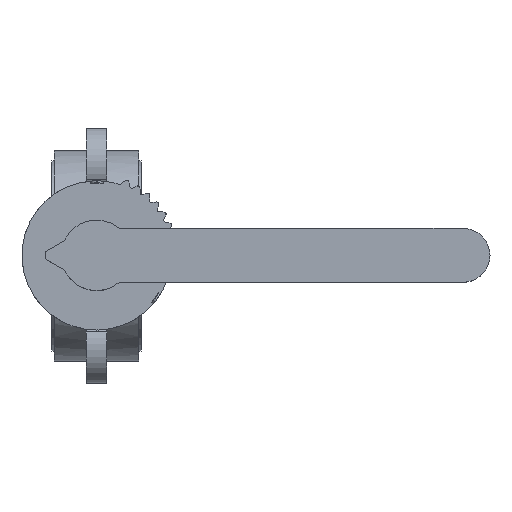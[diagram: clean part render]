
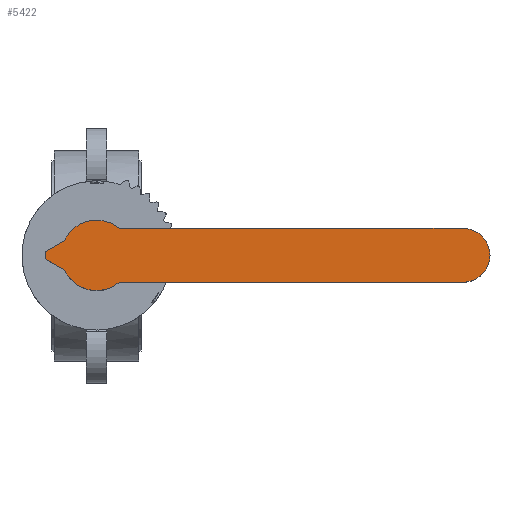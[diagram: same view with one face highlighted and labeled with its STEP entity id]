
A CAD part, top view. The second image highlights one B-rep face of the part: STEP entity #5422.
In plain terms, the highlighted planar face has unit normal (0, 0, 1).
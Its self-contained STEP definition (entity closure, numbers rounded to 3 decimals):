
#5422=ADVANCED_FACE('',(#10642),#10644,.T.);
#10642=FACE_BOUND('',#10643,.T.);
#10643=EDGE_LOOP('',(#14781,#14782,#14783,#14784,#14785,#14786,#14787,#14788,#14789,
#14790,#14791));
#10644=PLANE('',#10645);
#10645=AXIS2_PLACEMENT_3D('',#10646,#10647,#10648);
#10646=CARTESIAN_POINT('',(-1.545,-4.755,177.));
#10647=DIRECTION('',(0.,0.,1.));
#10648=DIRECTION('',(0.951,-0.309,0.));
#14781=ORIENTED_EDGE('',*,*,#17113,.F.);
#14782=ORIENTED_EDGE('',*,*,#17114,.T.);
#14783=ORIENTED_EDGE('',*,*,#17115,.T.);
#14784=ORIENTED_EDGE('',*,*,#17116,.T.);
#14785=ORIENTED_EDGE('',*,*,#17117,.T.);
#14786=ORIENTED_EDGE('',*,*,#17118,.T.);
#14787=ORIENTED_EDGE('',*,*,#17119,.T.);
#14788=ORIENTED_EDGE('',*,*,#17120,.T.);
#14789=ORIENTED_EDGE('',*,*,#17121,.T.);
#14790=ORIENTED_EDGE('',*,*,#17122,.T.);
#14791=ORIENTED_EDGE('',*,*,#17123,.T.);
#17113=EDGE_CURVE('',#20280,#20281,#20282,.F.);
#17114=EDGE_CURVE('',#20280,#20283,#20284,.T.);
#17115=EDGE_CURVE('',#20283,#20285,#20286,.T.);
#17116=EDGE_CURVE('',#20285,#20287,#20288,.T.);
#17117=EDGE_CURVE('',#20287,#20289,#20290,.T.);
#17118=EDGE_CURVE('',#20289,#20291,#20292,.T.);
#17119=EDGE_CURVE('',#20291,#20293,#20294,.T.);
#17120=EDGE_CURVE('',#20293,#20295,#20296,.T.);
#17121=EDGE_CURVE('',#20295,#20297,#20298,.T.);
#17122=EDGE_CURVE('',#20297,#20299,#20300,.T.);
#17123=EDGE_CURVE('',#20299,#20281,#20301,.T.);
#20280=VERTEX_POINT('',#28812);
#20281=VERTEX_POINT('',#28813);
#20282=CIRCLE('',#28814,13.);
#20283=VERTEX_POINT('',#28818);
#20284=LINE('',#28819,#28820);
#20285=VERTEX_POINT('',#28822);
#20286=CIRCLE('',#28823,17.);
#20287=VERTEX_POINT('',#28827);
#20288=CIRCLE('',#28828,17.);
#20289=VERTEX_POINT('',#28832);
#20290=CIRCLE('',#28833,3.);
#20291=VERTEX_POINT('',#28837);
#20292=LINE('',#28838,#28839);
#20293=VERTEX_POINT('',#28841);
#20294=CIRCLE('',#28842,3.);
#20295=VERTEX_POINT('',#28846);
#20296=LINE('',#28847,#28848);
#20297=VERTEX_POINT('',#28850);
#20298=CIRCLE('',#28851,3.);
#20299=VERTEX_POINT('',#28855);
#20300=CIRCLE('',#28856,17.);
#20301=LINE('',#28860,#28861);
#28812=CARTESIAN_POINT('',(177.,13.,177.));
#28813=CARTESIAN_POINT('',(177.,-13.,177.));
#28814=AXIS2_PLACEMENT_3D('',#28815,#28816,#28817);
#28815=CARTESIAN_POINT('',(177.,0.,177.));
#28816=DIRECTION('',(0.,0.,1.));
#28817=DIRECTION('',(0.,-1.,0.));
#28818=CARTESIAN_POINT('',(10.954,13.,177.));
#28819=CARTESIAN_POINT('',(177.,13.,177.));
#28820=VECTOR('',#28821,1.);
#28821=DIRECTION('',(-1.,0.,0.));
#28822=CARTESIAN_POINT('',(2.659,16.791,177.));
#28823=AXIS2_PLACEMENT_3D('',#28824,#28825,#28826);
#28824=CARTESIAN_POINT('',(0.,0.,177.));
#28825=DIRECTION('',(0.,0.,1.));
#28826=DIRECTION('',(0.644,0.765,0.));
#28827=CARTESIAN_POINT('',(-15.113,7.785,177.));
#28828=AXIS2_PLACEMENT_3D('',#28829,#28830,#28831);
#28829=CARTESIAN_POINT('',(0.,0.,177.));
#28830=DIRECTION('',(0.,0.,1.));
#28831=DIRECTION('',(0.156,0.988,0.));
#28832=CARTESIAN_POINT('',(-16.317,6.539,177.));
#28833=AXIS2_PLACEMENT_3D('',#28834,#28835,#28836);
#28834=CARTESIAN_POINT('',(-17.78,9.159,177.));
#28835=DIRECTION('',(0.,0.,-1.));
#28836=DIRECTION('',(0.889,-0.458,0.));
#28837=CARTESIAN_POINT('',(-23.338,2.619,177.));
#28838=CARTESIAN_POINT('',(-16.317,6.539,177.));
#28839=VECTOR('',#28840,1.);
#28840=DIRECTION('',(-0.873,-0.487,0.));
#28841=CARTESIAN_POINT('',(-23.338,-2.619,177.));
#28842=AXIS2_PLACEMENT_3D('',#28843,#28844,#28845);
#28843=CARTESIAN_POINT('',(-21.876,0.,177.));
#28844=DIRECTION('',(0.,0.,1.));
#28845=DIRECTION('',(-0.487,0.873,0.));
#28846=CARTESIAN_POINT('',(-16.317,-6.539,177.));
#28847=CARTESIAN_POINT('',(-23.338,-2.619,177.));
#28848=VECTOR('',#28849,1.);
#28849=DIRECTION('',(0.873,-0.487,0.));
#28850=CARTESIAN_POINT('',(-15.113,-7.785,177.));
#28851=AXIS2_PLACEMENT_3D('',#28852,#28853,#28854);
#28852=CARTESIAN_POINT('',(-17.78,-9.159,177.));
#28853=DIRECTION('',(0.,0.,-1.));
#28854=DIRECTION('',(0.487,0.873,0.));
#28855=CARTESIAN_POINT('',(10.954,-13.,177.));
#28856=AXIS2_PLACEMENT_3D('',#28857,#28858,#28859);
#28857=CARTESIAN_POINT('',(0.,0.,177.));
#28858=DIRECTION('',(0.,0.,1.));
#28859=DIRECTION('',(-0.889,-0.458,0.));
#28860=CARTESIAN_POINT('',(10.954,-13.,177.));
#28861=VECTOR('',#28862,1.);
#28862=DIRECTION('',(1.,0.,0.));
